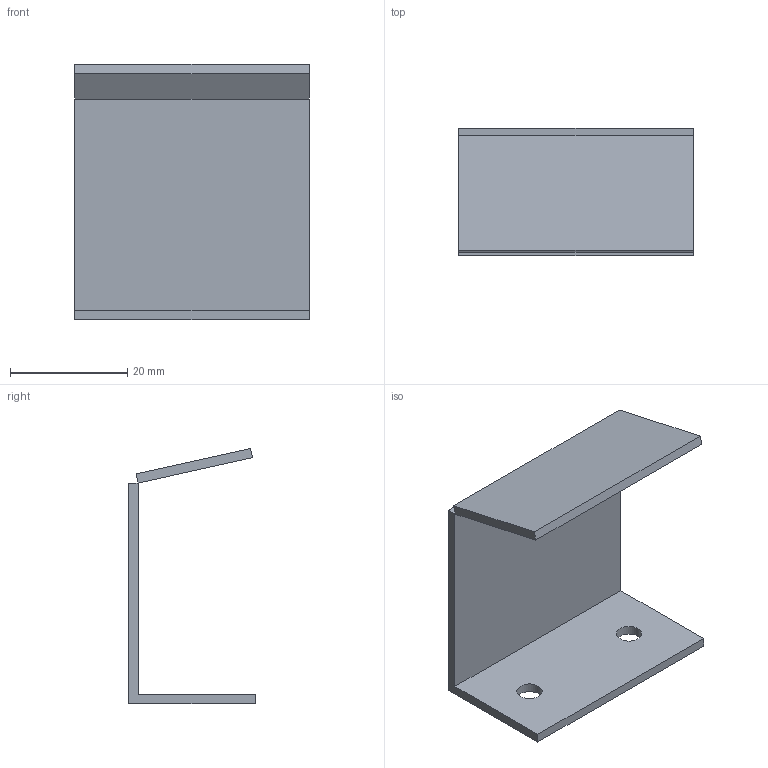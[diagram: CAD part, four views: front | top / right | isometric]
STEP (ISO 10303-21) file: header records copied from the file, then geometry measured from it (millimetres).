
FILE_DESCRIPTION(('Open CASCADE Model'),'2;1');
FILE_NAME('Open CASCADE Shape Model','2026-08-18T02:02:48',('Author'),( 'Open CASCADE'),'Open CASCADE STEP processor 7.9','Open CASCADE 7.9' ,'Unknown');
FILE_SCHEMA(('AUTOMOTIVE_DESIGN { 1 0 10303 214 1 1 1 1 }'));
Length unit declared in the file: millimetre
Products named in the file (3): Open CASCADE STEP translator 7.9 3; Open CASCADE STEP translator 7.9 3.1; Open CASCADE STEP translator 7.9 3.2
Assembly tree (2 placements, depth 2):
  Open CASCADE STEP translator 7.9 3
    Open CASCADE STEP translator 7.9 3.1
    Open CASCADE STEP translator 7.9 3.2
Bounding box: 40 x 21.6 x 43.49 mm (x, y, z)
Volume: 4920.2 mm3; surface area: 6697.8 mm2
Topology: 2 solids, 2 shells, 16 faces, 36 edges, 24 vertices
Faces by surface type: plane 14, cylinder 2
Full cylindrical faces by diameter (mm): 4.3 x2
Entity records: 964 total; most frequent: CARTESIAN_POINT 151, DIRECTION 150, LINE 100, VECTOR 100, ORIENTED_EDGE 72, PCURVE 72, DEFINITIONAL_REPRESENTATION 72, EDGE_CURVE 36
